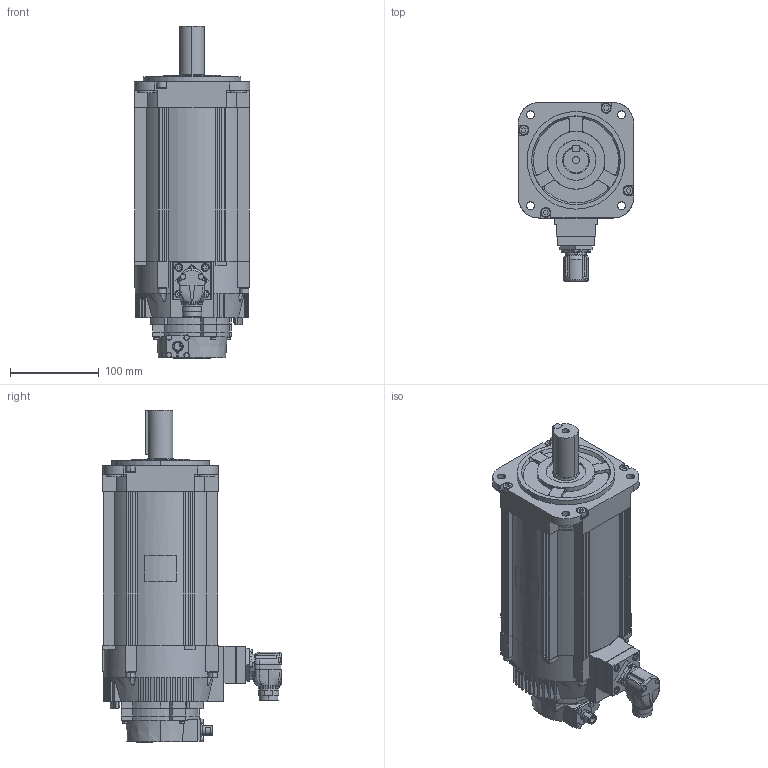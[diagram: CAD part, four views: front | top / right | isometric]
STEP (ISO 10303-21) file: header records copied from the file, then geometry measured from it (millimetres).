
FILE_DESCRIPTION (( 'STEP AP214' ), '1' );
FILE_NAME ('sgm7a_50d_f6h.STEP', '2016-08-04T01:00:27', ( '匠エンジニアリング山之内' ), ( 'TAKUMI-Engniaring' ), 'SwSTEP 2.0', 'SolidWorks 2006303', '' );
FILE_SCHEMA (( 'AUTOMOTIVE_DESIGN' ));
Length unit declared in the file: millimetre
Products named in the file (4): sgm7a_50d_f6h_key_蹬怮椔; sgm7a_50d_f6h_connector; sgm7a_50d_f6h_base_蹬怮椔; sgm7a_50d_f6h
Assembly tree (3 placements, depth 2):
  sgm7a_50d_f6h
    sgm7a_50d_f6h_connector
    sgm7a_50d_f6h_key_蹬怮椔
    sgm7a_50d_f6h_base_蹬怮椔
Bounding box: 130 x 201 x 374.1 mm (x, y, z)
Volume: 4049679.6 mm3; surface area: 253725.6 mm2
Topology: 3 solids, 3 shells, 1038 faces, 2717 edges, 1781 vertices
Faces by surface type: plane 675, cylinder 284, cone 46, bspline 24, torus 9
Entity records: 45191 total; most frequent: CARTESIAN_POINT 7734, ORIENTED_EDGE 5430, DIRECTION 5394, EDGE_CURVE 2715, AXIS2_PLACEMENT_3D 1835, VERTEX_POINT 1781, VECTOR 1724, LINE 1724
